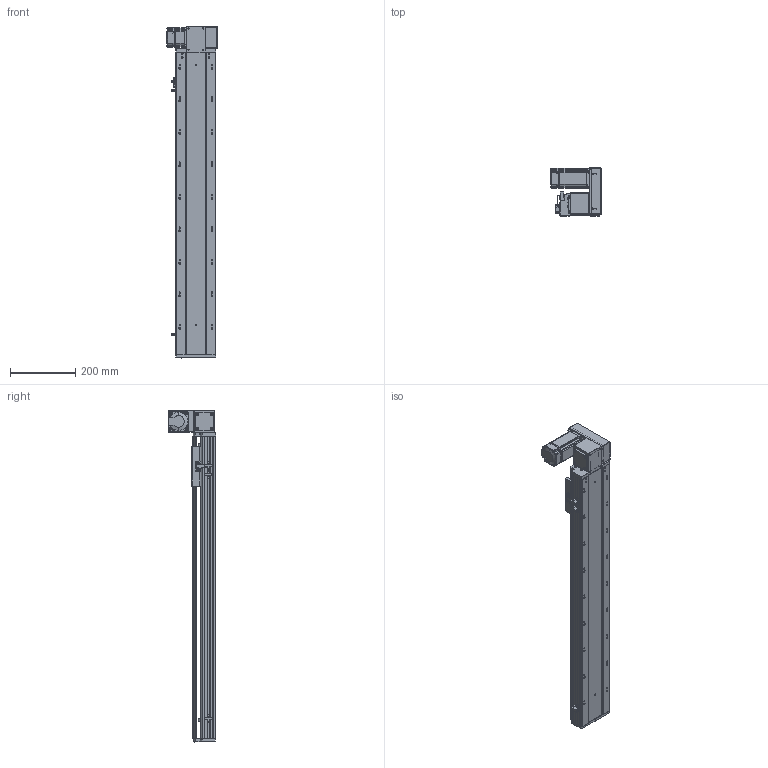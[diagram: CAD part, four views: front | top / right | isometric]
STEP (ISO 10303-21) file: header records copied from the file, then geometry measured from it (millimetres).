
FILE_DESCRIPTION (( 'STEP AP203' ), '1' );
FILE_NAME ('RY120-T-300-UR.SLDASM_700.step', '2021-03-01T05:56:08', ( '盈信电脑' ), ( '东莞市道滘镇水果街19号' ), 'SwSTEP 2.0', 'SolidWorks 2012', '' );
FILE_SCHEMA (( 'CONFIG_CONTROL_DESIGN' ));
Length unit declared in the file: millimetre
Products named in the file (17): RY120-T-300-UR倰第奻裔啣_700; RY120綴裔啣; RY120肮祭湍臏賑輸; RY120-T-300-UR倰第菁釱_700; RY120-T主同步轮轴承压盖; RY120-T-300-UR.SLDASM_700; 15; RY120-T萇儂欶; RY120-T蹟翐M4; RY120-T翋肮祭謫裔啣; 滅袉蝶18-10; RY120-T翋肮祭盓傅釱; RY120-T萇儂假蚾啣; RY120外置感应片(140共用）; RY120-T肮祭湍揤踡輸1; 覜茼ん672; RY120-T肮祭湍揤踡輸2
Assembly tree (22 placements, depth 2):
  RY120-T-300-UR.SLDASM_700
    RY120-T-300-UR倰第菁釱_700
    RY120-T-300-UR倰第奻裔啣_700
    RY120肮祭湍臏賑輸
    RY120綴裔啣
    覜茼ん672  x3
    RY120外置感应片(140共用）
    RY120-T肮祭湍揤踡輸1
    RY120-T肮祭湍揤踡輸2
    RY120-T翋肮祭盓傅釱
    RY120-T萇儂假蚾啣
    滅袉蝶18-10  x2
    RY120-T翋肮祭謫裔啣
    15
    RY120-T蹟翐M4  x4
    RY120-T萇儂欶
    RY120-T主同步轮轴承压盖
Bounding box: 155.5 x 146 x 1021 mm (x, y, z)
Volume: 2955303.6 mm3; surface area: 1091516.3 mm2
Topology: 23 solids, 23 shells, 2856 faces, 7824 edges, 5036 vertices
Faces by surface type: plane 1432, cylinder 1102, cone 233, bspline 89
Entity records: 91973 total; most frequent: CARTESIAN_POINT 23970, ORIENTED_EDGE 14112, DIRECTION 13206, EDGE_CURVE 7056, VERTEX_POINT 4623, AXIS2_PLACEMENT_3D 4423, VECTOR 4360, LINE 4360
